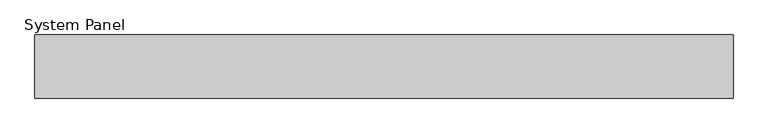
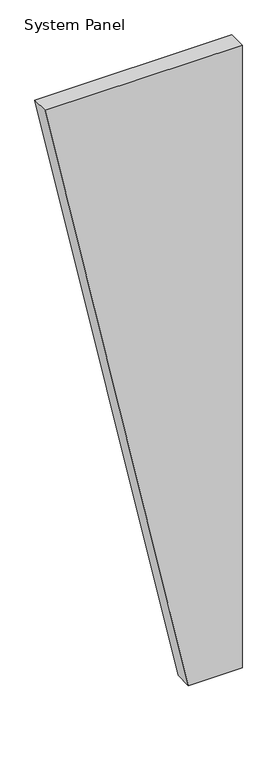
"""IFC4 building model written with IfcOpenShell, lengths in millimetres: plate geometry, System Panel : MetecnoPanel 100mm Vertical - Plain Astro - PIR."""

from ifc_helpers import new_model, si_unit, frame, origin, place, context, project, spatial, polyline, outline, extrude, source, transform, mapped, element, save


def system_panel_cab4ce0a(model_context):
    return source(origin(), model_context, "Body", "SweptSolid", [
        extrude(outline(polyline([(0.0, 250.0), (0.0, 550.0), (3679.9704237, 550.0), (3679.9704237, -550.0), (0.0, 250.0)])), frame((0.0, -100.0, 0.0), z_axis=(0.0, 1.0, 0.0), x_axis=(0.0, 0.0, 1.0)), (0.0, 0.0, 1.0), 100.0),
    ])


if __name__ == "__main__":
    model = new_model("IFC4")
    model_context = context("Model", 3, world=origin())
    ifc_project = project(units=[si_unit("LENGTHUNIT", "METRE", prefix="MILLI")], contexts=[model_context])
    site = spatial("IfcSite", under=ifc_project)
    building = spatial("IfcBuilding", under=site)
    placement = place(None, origin())
    system_panel_shape = system_panel_cab4ce0a(model_context)
    element("IfcPlate", 1, ObjectType="System Panel : MetecnoPanel 100mm Vertical - Plain Astro - PIR", at=placement, inside=building, context=model_context, shape_type="MappedRepresentation", body=[
        mapped(system_panel_shape, transform((0.0, 0.0, 0.0), x_axis=(1.0, 0.0, 0.0), y_axis=(0.0, 1.0, 0.0), z_axis=(0.0, 0.0, 1.0))),
    ])
    save(model, "model.ifc")
